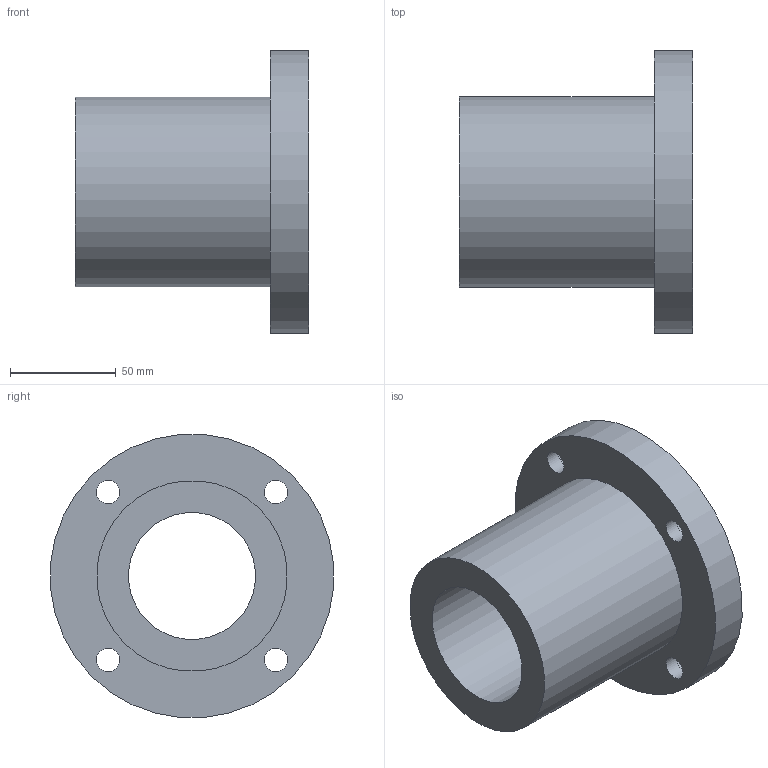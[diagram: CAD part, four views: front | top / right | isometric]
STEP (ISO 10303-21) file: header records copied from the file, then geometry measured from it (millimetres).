
FILE_DESCRIPTION(/* description */ (''),/* implementation_level */ '2;1');
FILE_NAME(/* name */ 'LMF60UU',/* time_stamp */ '2019-07-03T09:08:45+02:00',/* author */ ('VĂ©gh MĂˇtĂ©'),/* organization */ ('Bearing Kft'),/* preprocessor_version */ 'ST-DEVELOPER v16.7',/* originating_system */ 'DEX',/* authorisation */ $);
FILE_SCHEMA (('AUTOMOTIVE_DESIGN {1 0 10303 214 3 1 1}'));
Length unit declared in the file: millimetre
Products named in the file (1): LMF60UU
Bounding box: 110 x 133.49 x 133.49 mm (x, y, z)
Volume: 515381.5 mm3; surface area: 79499.7 mm2
Topology: 1 solids, 1 shells, 314 faces, 780 edges, 520 vertices
Faces by surface type: plane 241, bspline 61, cylinder 12
Full cylindrical faces by diameter (mm): 11 x4, 17 x4, 60 x1, 90 x1, 134 x1
Entity records: 12943 total; most frequent: CARTESIAN_POINT 5847, ORIENTED_EDGE 1530, DIRECTION 1175, EDGE_CURVE 765, LINE 619, VECTOR 619, VERTEX_POINT 520, EDGE_LOOP 391
